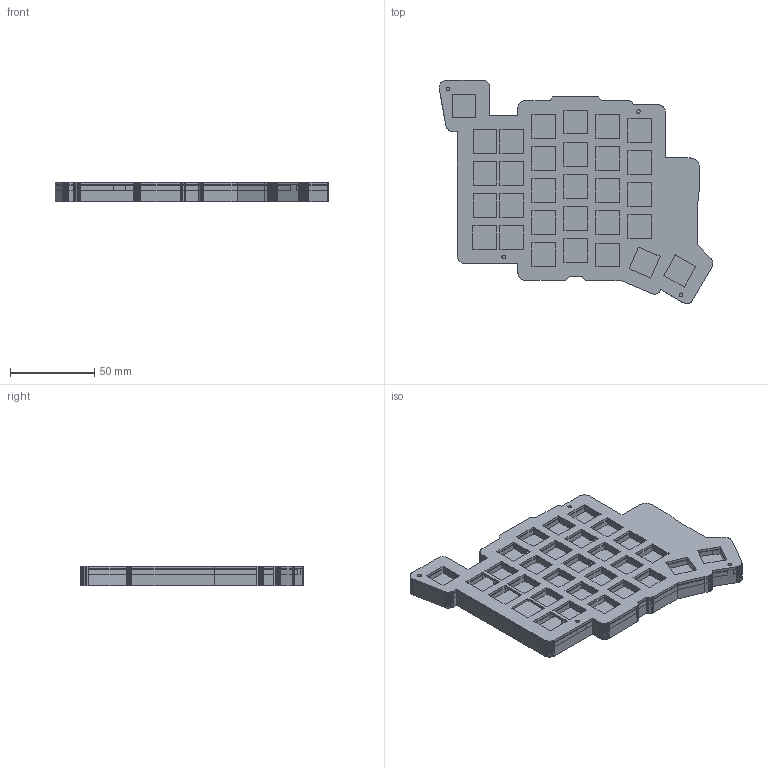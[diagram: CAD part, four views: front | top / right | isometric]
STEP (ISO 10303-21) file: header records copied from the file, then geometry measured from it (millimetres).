
FILE_DESCRIPTION(('Open CASCADE Model'),'2;1');
FILE_NAME('Open CASCADE Shape Model','1979-01-01T00:00:00',('Author'),( 'Open CASCADE'),'Open CASCADE STEP processor 8.0','Open CASCADE 8.0' ,'Unknown');
FILE_SCHEMA(('AUTOMOTIVE_DESIGN { 1 0 10303 214 1 1 1 1 }'));
Length unit declared in the file: millimetre
Products named in the file (6): Open CASCADE STEP translator 8.0 1; Open CASCADE STEP translator 8.0 1.1; Open CASCADE STEP translator 8.0 1.2; Open CASCADE STEP translator 8.0 1.3; Open CASCADE STEP translator 8.0 1.4; Open CASCADE STEP translator 8.0 1.5
Assembly tree (5 placements, depth 2):
  Open CASCADE STEP translator 8.0 1
    Open CASCADE STEP translator 8.0 1.1
    Open CASCADE STEP translator 8.0 1.2
    Open CASCADE STEP translator 8.0 1.3
    Open CASCADE STEP translator 8.0 1.4
    Open CASCADE STEP translator 8.0 1.5
Bounding box: 162.51 x 132.49 x 11.6 mm (x, y, z)
Volume: 139836.4 mm3; surface area: 142728.6 mm2
Topology: 5 solids, 5 shells, 1858 faces, 5526 edges, 3680 vertices
Faces by surface type: plane 1843, cylinder 15
Full cylindrical faces by diameter (mm): 2.2 x8, 6 x1
Entity records: 133301 total; most frequent: CARTESIAN_POINT 22134, DIRECTION 20327, LINE 16497, VECTOR 16497, ORIENTED_EDGE 11052, PCURVE 11052, DEFINITIONAL_REPRESENTATION 11052, EDGE_CURVE 5526
